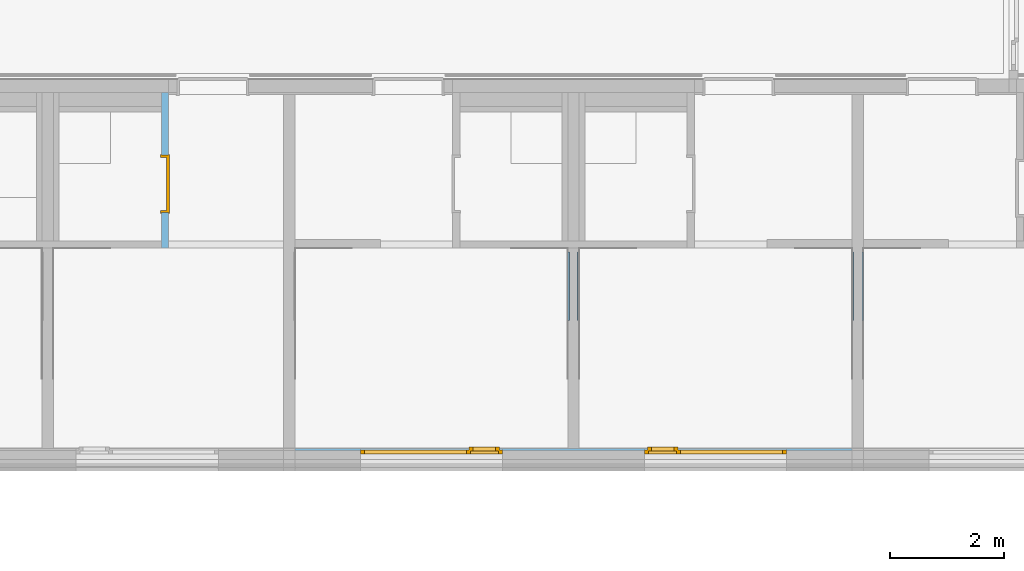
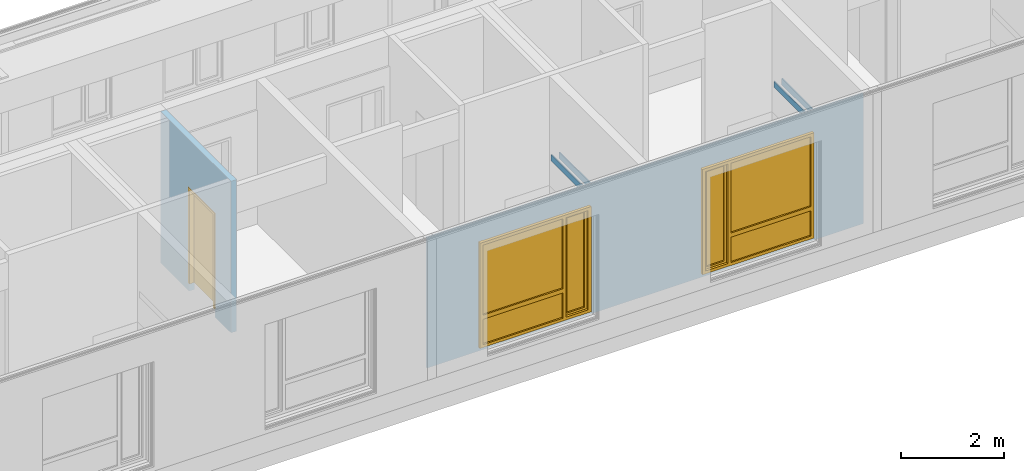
# One storey, part 71 of 207: 4 walls, 2 windows, 1 door, 3 openings, plus 2 elements that do not belong to this part.
"""IFC4 building model written with IfcOpenShell, lengths in metres."""

from ifc_helpers import new_model, entity, si_unit, converted_unit, derived_unit, frame, frame_2d, origin, origin_with_axes, place, context, subcontext, project, spatial, polyline, rectangle, outline, extrude, closed_shell, open_shell, faceted_brep, surface_model, source, transform, mapped, material, type_object, element, fill, save


model = new_model("IFC4")

# Units and contexts
model_context = context("Model", 3, precision=1e-05, world=origin())
body_context = subcontext(model_context, "Body", "Model", "MODEL_VIEW")
ifc_project = project(units=[si_unit("LENGTHUNIT", "METRE"), si_unit("AREAUNIT", "SQUARE_METRE"), si_unit("VOLUMEUNIT", "CUBIC_METRE"), si_unit("MASSUNIT", "GRAM", prefix="KILO"), converted_unit("PLANEANGLEUNIT", "DEGREE", entity("IfcPlaneAngleMeasure", 0.0174532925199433), si_unit("PLANEANGLEUNIT", "RADIAN"), dimensions=[0, 0, 0, 0, 0, 0, 0]), derived_unit("THERMALTRANSMITTANCEUNIT", [(si_unit("POWERUNIT", "WATT"), 1), (si_unit("THERMODYNAMICTEMPERATUREUNIT", "KELVIN"), -1), (si_unit("LENGTHUNIT", "METRE"), -2)]), derived_unit("VOLUMETRICFLOWRATEUNIT", [(si_unit("LENGTHUNIT", "METRE"), 3), (converted_unit("TIMEUNIT", "hour", entity("IfcTimeMeasure", 3600.0), si_unit("TIMEUNIT", "SECOND"), dimensions=[0, 0, 1, 0, 0, 0, 0]), -1), (si_unit("LENGTHUNIT", "METRE"), -1)])], contexts=[model_context])

# Site, building, storey
site_placement = place(None, origin())
site = spatial("IfcSite", under=ifc_project, at=site_placement, Name="Psychiatrie Neubau Wunstorf", CompositionType="ELEMENT")
building_placement = place(site_placement, origin())
building = spatial("IfcBuilding", under=site, at=building_placement, Name="Neubau H2 Stationsgebäude", CompositionType="ELEMENT")
storey_placement = place(building_placement, frame((0.0, 0.0, -0.2)))
storey = spatial("IfcBuildingStorey", under=building, at=storey_placement, Name="H2 Ebene 0", CompositionType="ELEMENT", Elevation=-0.2)

# Wall, openings, windows
ifc_material_1 = material(Name="WA-LB")
wall_1_placement = place(storey_placement, frame((29.9, -2.16399999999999, 0.5), z_axis=(0.0, 0.0, 1.0), x_axis=(-1.0, 1.39208372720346e-16, 0.0)))
wall_1 = element("IfcWall", 1, at=wall_1_placement, inside=storey, material=ifc_material_1, context=body_context, shape_type="SweptSolid", body=[
    extrude(rectangle(XDim=9.8, YDim=0.036, at=frame_2d((4.9, 0.018), x_axis=(1.0, 0.0))), origin_with_axes(), (0.0, 0.0, 1.0), 3.1),
])
opening_1_placement = place(wall_1_placement, frame((1.15, 0.0, 0.1), z_axis=(0.0, 1.0, 0.0), x_axis=(0.0, 0.0, 1.0)))
opening_1 = element("IfcOpeningElement", 2, at=opening_1_placement, cuts=wall_1, Name="Fensteröffnung", ObjectType="Opening", context=body_context, shape_type="SweptSolid", body=[
    extrude(outline(polyline([(2.5, 2.5), (2.5, 0.0), (0.0, 0.0), (0.0, 2.5), (2.5, 2.5)])), origin_with_axes(), (0.0, 0.0, 1.0), 0.036),
])
opening_2_placement = place(wall_1_placement, frame((6.15, 0.0, 0.1), z_axis=(0.0, 1.0, 0.0), x_axis=(0.0, 0.0, 1.0)))
opening_2 = element("IfcOpeningElement", 3, at=opening_2_placement, cuts=wall_1, Name="Fensteröffnung", ObjectType="Opening", context=body_context, shape_type="SweptSolid", body=[
    extrude(outline(polyline([(2.5, 2.5), (2.5, 0.0), (0.0, 0.0), (0.0, 2.5), (2.5, 2.5)])), origin_with_axes(), (0.0, 0.0, 1.0), 0.036),
])
shared_shape_1 = source(origin_with_axes(), body_context, "Body", "SurfaceModel", [
    surface_model("IfcShellBasedSurfaceModel", [(2.5, 0.0, 2.5), (2.5, 0.0, 0.0), (2.43, 0.0, 0.0), (2.43, 0.0, 2.5), (2.5, 0.0699999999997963, 0.0), (2.5, 0.0699999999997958, 2.5), (2.43, 0.0699999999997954, 2.5), (2.43, 0.0699999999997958, 0.0)], [closed_shell([[[0, 1, 2, 3]], [[4, 5, 6, 7]], [[1, 0, 5, 4]], [[2, 1, 4, 7]], [[3, 2, 7, 6]], [[0, 3, 6, 5]]], orient=[[False], [False], [False], [False], [False], [False]])]),
    surface_model("IfcShellBasedSurfaceModel", [(0.07, 0.0, 2.5), (0.07, 0.0, 0.0), (0.0, 0.0, 0.0), (0.0, 0.0, 2.5), (0.07, 0.0699999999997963, 0.0), (0.07, 0.0699999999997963, 2.5), (0.0, 0.0699999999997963, 2.5), (0.0, 0.0699999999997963, 0.0)], [closed_shell([[[0, 1, 2, 3]], [[4, 5, 6, 7]], [[1, 0, 5, 4]], [[2, 1, 4, 7]], [[3, 2, 7, 6]], [[0, 3, 6, 5]]], orient=[[False], [False], [False], [False], [False], [False]])]),
    surface_model("IfcShellBasedSurfaceModel", [(2.43, 0.0, 0.07), (2.43, 0.0, 0.0), (0.07, 0.0, 0.0), (0.07, 0.0, 0.07), (2.43, 0.0699999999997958, 0.0), (2.43, 0.0699999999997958, 0.07), (0.07, 0.0699999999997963, 0.07), (0.07, 0.0699999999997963, 0.0)], [closed_shell([[[0, 1, 2, 3]], [[4, 5, 6, 7]], [[1, 0, 5, 4]], [[2, 1, 4, 7]], [[3, 2, 7, 6]], [[0, 3, 6, 5]]], orient=[[False], [False], [False], [False], [False], [False]])]),
    surface_model("IfcShellBasedSurfaceModel", [(2.43, 0.0, 2.5), (2.43, 0.0, 2.43), (0.07, 0.0, 2.43), (0.07, 0.0, 2.5), (2.43, 0.0699999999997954, 2.43), (2.43, 0.0699999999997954, 2.5), (0.07, 0.0699999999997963, 2.5), (0.07, 0.0699999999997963, 2.43)], [closed_shell([[[0, 1, 2, 3]], [[4, 5, 6, 7]], [[1, 0, 5, 4]], [[2, 1, 4, 7]], [[3, 2, 7, 6]], [[0, 3, 6, 5]]], orient=[[False], [False], [False], [False], [False], [False]])]),
    surface_model("IfcShellBasedSurfaceModel", [(1.934285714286, 0.0, 2.43), (1.934285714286, 0.0, 0.07), (1.864285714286, 0.0, 0.07), (1.864285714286, 0.0, 2.43), (1.934285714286, 0.0699999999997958, 0.07), (1.934285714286, 0.0699999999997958, 2.43), (1.864285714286, 0.0699999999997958, 2.43), (1.864285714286, 0.0699999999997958, 0.07)], [closed_shell([[[0, 1, 2, 3]], [[4, 5, 6, 7]], [[1, 0, 5, 4]], [[2, 1, 4, 7]], [[3, 2, 7, 6]], [[0, 3, 6, 5]]], orient=[[False], [False], [False], [False], [False], [False]])]),
    surface_model("IfcShellBasedSurfaceModel", [(2.45, -0.0500000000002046, 2.45), (2.45, -0.0500000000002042, 0.05), (2.38, -0.0500000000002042, 0.05), (2.38, -0.0500000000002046, 2.45), (2.45, 0.0199999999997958, 0.05), (2.45, 0.0199999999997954, 2.45), (2.38, 0.0199999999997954, 2.45), (2.38, 0.0199999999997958, 0.05)], [closed_shell([[[0, 1, 2, 3]], [[4, 5, 6, 7]], [[1, 0, 5, 4]], [[2, 1, 4, 7]], [[3, 2, 7, 6]], [[0, 3, 6, 5]]], orient=[[False], [False], [False], [False], [False], [False]])]),
    surface_model("IfcShellBasedSurfaceModel", [(1.984285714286, -0.0500000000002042, 2.45), (1.984285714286, -0.0500000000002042, 0.05), (1.914285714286, -0.0500000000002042, 0.05), (1.914285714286, -0.0500000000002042, 2.45), (1.984285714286, 0.0199999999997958, 0.05), (1.984285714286, 0.0199999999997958, 2.45), (1.914285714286, 0.0199999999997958, 2.45), (1.914285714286, 0.0199999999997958, 0.05)], [closed_shell([[[0, 1, 2, 3]], [[4, 5, 6, 7]], [[1, 0, 5, 4]], [[2, 1, 4, 7]], [[3, 2, 7, 6]], [[0, 3, 6, 5]]], orient=[[False], [False], [False], [False], [False], [False]])]),
    surface_model("IfcShellBasedSurfaceModel", [(2.38, -0.0500000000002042, 0.12), (2.38, -0.0500000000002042, 0.05), (1.984285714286, -0.0500000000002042, 0.05), (1.984285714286, -0.0500000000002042, 0.12), (2.38, 0.0199999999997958, 0.05), (2.38, 0.0199999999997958, 0.12), (1.984285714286, 0.0199999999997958, 0.12), (1.984285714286, 0.0199999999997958, 0.05)], [closed_shell([[[0, 1, 2, 3]], [[4, 5, 6, 7]], [[1, 0, 5, 4]], [[2, 1, 4, 7]], [[3, 2, 7, 6]], [[0, 3, 6, 5]]], orient=[[False], [False], [False], [False], [False], [False]])]),
    surface_model("IfcShellBasedSurfaceModel", [(2.38, -0.0500000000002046, 2.45), (2.38, -0.0500000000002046, 2.38), (1.984285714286, -0.0500000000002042, 2.38), (1.984285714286, -0.0500000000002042, 2.45), (2.38, 0.0199999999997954, 2.38), (2.38, 0.0199999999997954, 2.45), (1.984285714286, 0.0199999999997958, 2.45), (1.984285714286, 0.0199999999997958, 2.38)], [closed_shell([[[0, 1, 2, 3]], [[4, 5, 6, 7]], [[1, 0, 5, 4]], [[2, 1, 4, 7]], [[3, 2, 7, 6]], [[0, 3, 6, 5]]], orient=[[False], [False], [False], [False], [False], [False]])]),
    surface_model("IfcShellBasedSurfaceModel", [(1.864285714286, 0.0, 0.77), (1.864285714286, 0.0, 0.67), (0.07, 0.0, 0.67), (0.07, 0.0, 0.77), (1.864285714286, 0.0699999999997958, 0.67), (1.864285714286, 0.0699999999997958, 0.77), (0.07, 0.0699999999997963, 0.77), (0.07, 0.0699999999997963, 0.67)], [closed_shell([[[0, 1, 2, 3]], [[4, 5, 6, 7]], [[1, 0, 5, 4]], [[2, 1, 4, 7]], [[3, 2, 7, 6]], [[0, 3, 6, 5]]], orient=[[False], [False], [False], [False], [False], [False]])]),
    surface_model("IfcShellBasedSurfaceModel", [(2.38, -0.0150000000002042, 0.12), (1.984285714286, -0.0150000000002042, 0.12), (1.984285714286, -0.0150000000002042, 2.38), (2.38, -0.0150000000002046, 2.38)], [open_shell([[[0, 1, 2, 3]]], orient=[[False]])]),
    surface_model("IfcShellBasedSurfaceModel", [(1.864285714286, 0.0349999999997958, 0.07), (0.07, 0.0349999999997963, 0.07), (0.07, 0.0349999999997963, 0.67), (1.864285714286, 0.0349999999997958, 0.67)], [open_shell([[[0, 1, 2, 3]]], orient=[[False]])]),
    surface_model("IfcShellBasedSurfaceModel", [(1.864285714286, 0.0349999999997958, 0.77), (0.07, 0.0349999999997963, 0.77), (0.07, 0.0349999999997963, 2.43), (1.864285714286, 0.0349999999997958, 2.43)], [open_shell([[[0, 1, 2, 3]]], orient=[[False]])]),
])
window_1_placement = place(opening_1_placement, frame((0.0, 0.0, 0.03), z_axis=(1.0, 0.0, 0.0), x_axis=(0.0, 1.0, -4.26905676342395e-17)))
window_1 = element("IfcWindow", 4, at=window_1_placement, inside=storey, Name="Fenster", OverallHeight=2.5, OverallWidth=2.5, PartitioningType="USERDEFINED", PredefinedType="WINDOW", context=body_context, shape_type="MappedRepresentation", body=[
    mapped(shared_shape_1, transform((0.0, 0.0, 0.0), x_axis=(1.0, 0.0, 0.0), y_axis=(0.0, 1.0, 0.0), z_axis=(0.0, 0.0, 1.0), scale=1.0)),
])
fill(opening_1, window_1)
shared_shape_2 = source(origin_with_axes(), body_context, "Body", "SurfaceModel", [
    surface_model("IfcShellBasedSurfaceModel", [(0.0, 0.0, 2.5), (0.07, 0.0, 2.5), (0.07, 0.0, 0.0), (0.0, 0.0, 0.0), (0.0, 0.0699999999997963, 0.0), (0.07, 0.0699999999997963, 0.0), (0.07, 0.0699999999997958, 2.5), (0.0, 0.0699999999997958, 2.5)], [closed_shell([[[0, 1, 2, 3]], [[4, 5, 6, 7]], [[3, 4, 7, 0]], [[2, 5, 4, 3]], [[1, 6, 5, 2]], [[0, 7, 6, 1]]], orient=[[False], [False], [False], [False], [False], [False]])]),
    surface_model("IfcShellBasedSurfaceModel", [(2.43, 0.0, 2.5), (2.5, 0.0, 2.5), (2.5, 0.0, 0.0), (2.43, 0.0, 0.0), (2.43, 0.0699999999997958, 0.0), (2.5, 0.0699999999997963, 0.0), (2.5, 0.0699999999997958, 2.5), (2.43, 0.0699999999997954, 2.5)], [closed_shell([[[0, 1, 2, 3]], [[4, 5, 6, 7]], [[3, 4, 7, 0]], [[2, 5, 4, 3]], [[1, 6, 5, 2]], [[0, 7, 6, 1]]], orient=[[False], [False], [False], [False], [False], [False]])]),
    surface_model("IfcShellBasedSurfaceModel", [(0.07, 0.0, 0.07), (2.43, 0.0, 0.07), (2.43, 0.0, 0.0), (0.07, 0.0, 0.0), (0.07, 0.0699999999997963, 0.0), (2.43, 0.0699999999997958, 0.0), (2.43, 0.0699999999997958, 0.07), (0.07, 0.0699999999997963, 0.07)], [closed_shell([[[0, 1, 2, 3]], [[4, 5, 6, 7]], [[3, 4, 7, 0]], [[2, 5, 4, 3]], [[1, 6, 5, 2]], [[0, 7, 6, 1]]], orient=[[False], [False], [False], [False], [False], [False]])]),
    surface_model("IfcShellBasedSurfaceModel", [(0.07, 0.0, 2.5), (2.43, 0.0, 2.5), (2.43, 0.0, 2.43), (0.07, 0.0, 2.43), (0.07, 0.0699999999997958, 2.43), (2.43, 0.0699999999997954, 2.43), (2.43, 0.0699999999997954, 2.5), (0.07, 0.0699999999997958, 2.5)], [closed_shell([[[0, 1, 2, 3]], [[4, 5, 6, 7]], [[3, 4, 7, 0]], [[2, 5, 4, 3]], [[1, 6, 5, 2]], [[0, 7, 6, 1]]], orient=[[False], [False], [False], [False], [False], [False]])]),
    surface_model("IfcShellBasedSurfaceModel", [(0.565714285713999, 0.0, 2.43), (0.635714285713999, 0.0, 2.43), (0.635714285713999, 0.0, 0.07), (0.565714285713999, 0.0, 0.07), (0.565714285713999, 0.0699999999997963, 0.07), (0.635714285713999, 0.0699999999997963, 0.07), (0.635714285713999, 0.0699999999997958, 2.43), (0.565714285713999, 0.0699999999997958, 2.43)], [closed_shell([[[0, 1, 2, 3]], [[4, 5, 6, 7]], [[3, 4, 7, 0]], [[2, 5, 4, 3]], [[1, 6, 5, 2]], [[0, 7, 6, 1]]], orient=[[False], [False], [False], [False], [False], [False]])]),
    surface_model("IfcShellBasedSurfaceModel", [(0.05, -0.0500000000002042, 2.45), (0.12, -0.0500000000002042, 2.45), (0.12, -0.0500000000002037, 0.05), (0.05, -0.0500000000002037, 0.05), (0.05, 0.0199999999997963, 0.05), (0.12, 0.0199999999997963, 0.05), (0.12, 0.0199999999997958, 2.45), (0.05, 0.0199999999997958, 2.45)], [closed_shell([[[0, 1, 2, 3]], [[4, 5, 6, 7]], [[3, 4, 7, 0]], [[2, 5, 4, 3]], [[1, 6, 5, 2]], [[0, 7, 6, 1]]], orient=[[False], [False], [False], [False], [False], [False]])]),
    surface_model("IfcShellBasedSurfaceModel", [(0.515714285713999, -0.0500000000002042, 2.45), (0.585714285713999, -0.0500000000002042, 2.45), (0.585714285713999, -0.0500000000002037, 0.05), (0.515714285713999, -0.0500000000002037, 0.05), (0.515714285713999, 0.0199999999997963, 0.05), (0.585714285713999, 0.0199999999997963, 0.05), (0.585714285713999, 0.0199999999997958, 2.45), (0.515714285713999, 0.0199999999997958, 2.45)], [closed_shell([[[0, 1, 2, 3]], [[4, 5, 6, 7]], [[3, 4, 7, 0]], [[2, 5, 4, 3]], [[1, 6, 5, 2]], [[0, 7, 6, 1]]], orient=[[False], [False], [False], [False], [False], [False]])]),
    surface_model("IfcShellBasedSurfaceModel", [(0.12, -0.0500000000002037, 0.12), (0.515714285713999, -0.0500000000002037, 0.12), (0.515714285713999, -0.0500000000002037, 0.05), (0.12, -0.0500000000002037, 0.05), (0.12, 0.0199999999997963, 0.05), (0.515714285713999, 0.0199999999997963, 0.05), (0.515714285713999, 0.0199999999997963, 0.12), (0.12, 0.0199999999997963, 0.12)], [closed_shell([[[0, 1, 2, 3]], [[4, 5, 6, 7]], [[3, 4, 7, 0]], [[2, 5, 4, 3]], [[1, 6, 5, 2]], [[0, 7, 6, 1]]], orient=[[False], [False], [False], [False], [False], [False]])]),
    surface_model("IfcShellBasedSurfaceModel", [(0.12, -0.0500000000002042, 2.45), (0.515714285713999, -0.0500000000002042, 2.45), (0.515714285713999, -0.0500000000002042, 2.38), (0.12, -0.0500000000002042, 2.38), (0.12, 0.0199999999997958, 2.38), (0.515714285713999, 0.0199999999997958, 2.38), (0.515714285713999, 0.0199999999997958, 2.45), (0.12, 0.0199999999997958, 2.45)], [closed_shell([[[0, 1, 2, 3]], [[4, 5, 6, 7]], [[3, 4, 7, 0]], [[2, 5, 4, 3]], [[1, 6, 5, 2]], [[0, 7, 6, 1]]], orient=[[False], [False], [False], [False], [False], [False]])]),
    surface_model("IfcShellBasedSurfaceModel", [(0.635714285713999, 0.0, 0.77), (2.43, 0.0, 0.77), (2.43, 0.0, 0.67), (0.635714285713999, 0.0, 0.67), (0.635714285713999, 0.0699999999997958, 0.67), (2.43, 0.0699999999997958, 0.67), (2.43, 0.0699999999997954, 0.77), (0.635714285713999, 0.0699999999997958, 0.77)], [closed_shell([[[0, 1, 2, 3]], [[4, 5, 6, 7]], [[3, 4, 7, 0]], [[2, 5, 4, 3]], [[1, 6, 5, 2]], [[0, 7, 6, 1]]], orient=[[False], [False], [False], [False], [False], [False]])]),
    surface_model("IfcShellBasedSurfaceModel", [(0.12, -0.0150000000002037, 0.12), (0.12, -0.0150000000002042, 2.38), (0.515714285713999, -0.0150000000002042, 2.38), (0.515714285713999, -0.0150000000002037, 0.12)], [open_shell([[[0, 1, 2, 3]]], orient=[[False]])]),
    surface_model("IfcShellBasedSurfaceModel", [(0.635714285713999, 0.0349999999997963, 0.07), (0.635714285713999, 0.0349999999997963, 0.67), (2.43, 0.0349999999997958, 0.67), (2.43, 0.0349999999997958, 0.07)], [open_shell([[[0, 1, 2, 3]]], orient=[[False]])]),
    surface_model("IfcShellBasedSurfaceModel", [(0.635714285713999, 0.0349999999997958, 0.77), (0.635714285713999, 0.0349999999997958, 2.43), (2.43, 0.0349999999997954, 2.43), (2.43, 0.0349999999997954, 0.77)], [open_shell([[[0, 1, 2, 3]]], orient=[[False]])]),
])
window_2_placement = place(opening_2_placement, frame((0.0, 0.0, 0.03), z_axis=(1.0, 0.0, 0.0), x_axis=(0.0, 1.0, -4.26905676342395e-17)))
window_2 = element("IfcWindow", 5, at=window_2_placement, inside=storey, Name="Fenster", OverallHeight=2.5, OverallWidth=2.5, PartitioningType="USERDEFINED", PredefinedType="WINDOW", context=body_context, shape_type="MappedRepresentation", body=[
    mapped(shared_shape_2, transform((0.0, 0.0, 0.0), x_axis=(1.0, 0.0, 0.0), y_axis=(0.0, 1.0, 0.0), z_axis=(0.0, 0.0, 1.0), scale=1.0)),
])
fill(opening_2, window_2)

# Walls
for number, where, name in (
    (6, (25.075, 0.0854496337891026, 1.625), "WV 1.1"),
    (7, (24.9, 0.0854496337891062, 1.625), "WV 1.1"),
    (8, (29.9, 0.0854496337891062, 1.625), "WV 1.1"),
    (9, (30.075, 0.0854496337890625, 1.625), "WV 1.1"),
):
    element("IfcWall", number, at=place(storey_placement, frame(where)), inside=storey, Name=name, context=body_context, shape_type="Brep", body=[
        faceted_brep([(0.025, 1.2, 0.0), (0.0, 1.2, 0.0), (0.0, 0.0, 0.0), (0.025, 0.0, 0.0), (0.0, 1.2, 0.15), (0.025, 1.2, 0.15), (0.025, 0.0, 0.15), (0.0, 0.0, 0.15)], [[[0, 1, 2, 3]], [[4, 5, 6, 7]], [[1, 0, 5, 4]], [[2, 1, 4, 7]], [[3, 2, 7, 6]], [[0, 3, 6, 5]]], orient=[[False], [False], [False], [False], [False], [False]]),
    ])

# Wall, opening, door
ifc_material_2 = material(Name="WI-LB")
wall_2_placement = place(storey_placement, frame((17.875, 1.35874963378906, 0.0), z_axis=(0.0, 0.0, 1.0), x_axis=(0.0, 1.0, 0.0)))
wall_2 = element("IfcWall", 10, at=wall_2_placement, inside=storey, material=ifc_material_2, context=body_context, shape_type="SweptSolid", body=[
    extrude(rectangle(XDim=2.74, YDim=0.125, at=frame_2d((1.37, 0.0625), x_axis=(1.0, 0.0))), origin_with_axes(), (0.0, 0.0, 1.0), 3.6),
])
opening_3_placement = place(wall_2_placement, frame((1.635, 0.125, 0.0), z_axis=(0.0, -1.0, 0.0), x_axis=(0.0, 0.0, 1.0)))
opening_3 = element("IfcOpeningElement", 11, at=opening_3_placement, cuts=wall_2, Name="Türöffnung", ObjectType="Opening", context=body_context, shape_type="SweptSolid", body=[
    extrude(outline(polyline([(2.46, 1.01), (2.46, 0.0), (0.0, 0.0), (0.0, 1.01), (2.46, 1.01)])), origin_with_axes(), (0.0, 0.0, 1.0), 0.125),
])
ifc_material_3 = material(Name="TI-1F-UZ-D-N")
door_type = type_object("IfcDoorType", Name="SMT", OperationType="SINGLE_SWING_RIGHT", ParameterTakesPrecedence=False, PredefinedType="DOOR")
shared_shape_3 = source(origin_with_axes(), body_context, "Body", "Brep", [
    faceted_brep([(1.05, 0.0124999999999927, 0.0), (1.05, 0.112499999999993, 0.0), (1.01, 0.112499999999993, 0.0), (1.01, 0.0124999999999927, 0.0), (1.05, 0.112499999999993, 3.6), (1.05, 0.0124999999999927, 3.6), (1.01, 0.0124999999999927, 3.6), (1.01, 0.112499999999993, 3.6)], [[[0, 1, 2, 3]], [[4, 5, 6, 7]], [[1, 0, 5, 4]], [[2, 1, 4, 7]], [[3, 2, 7, 6]], [[0, 3, 6, 5]]], orient=[[False], [False], [False], [False], [False], [False]]),
    faceted_brep([(0.0, 0.0124999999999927, 0.0), (0.0, 0.112499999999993, 0.0), (-0.0399999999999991, 0.112499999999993, 0.0), (-0.0399999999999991, 0.0124999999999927, 0.0), (0.0, 0.112499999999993, 3.6), (0.0, 0.0124999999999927, 3.6), (-0.0399999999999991, 0.0124999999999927, 3.6), (-0.0399999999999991, 0.112499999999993, 3.6)], [[[0, 1, 2, 3]], [[4, 5, 6, 7]], [[1, 0, 5, 4]], [[2, 1, 4, 7]], [[3, 2, 7, 6]], [[0, 3, 6, 5]]], orient=[[False], [False], [False], [False], [False], [False]]),
    faceted_brep([(1.01, 0.0124999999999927, 2.46), (1.01, 0.112499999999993, 2.46), (0.0, 0.112499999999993, 2.46), (0.0, 0.0124999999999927, 2.46), (1.01, 0.112499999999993, 2.5), (1.01, 0.0124999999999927, 2.5), (0.0, 0.0124999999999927, 2.5), (0.0, 0.112499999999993, 2.5)], [[[0, 1, 2, 3]], [[4, 5, 6, 7]], [[1, 0, 5, 4]], [[2, 1, 4, 7]], [[3, 2, 7, 6]], [[0, 3, 6, 5]]], orient=[[False], [False], [False], [False], [False], [False]]),
])
shared_shape_4 = source(origin_with_axes(), body_context, "Body", "Brep", [
    faceted_brep([(0.0, -0.0150000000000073, 2.46), (0.0400000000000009, -0.0150000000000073, 2.46), (0.0400000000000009, -0.0150000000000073, 0.2), (0.0, -0.0150000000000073, 0.2), (0.0, 0.139999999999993, 0.2), (0.0400000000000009, 0.139999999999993, 0.2), (0.0400000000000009, 0.139999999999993, 2.46), (0.0, 0.139999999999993, 2.46)], [[[0, 1, 2, 3]], [[4, 5, 6, 7]], [[3, 4, 7, 0]], [[2, 5, 4, 3]], [[1, 6, 5, 2]], [[0, 7, 6, 1]]], orient=[[False], [False], [False], [False], [False], [False]]),
    faceted_brep([(0.0, -0.0150000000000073, 2.475), (0.0, -0.0150000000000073, 0.2), (-0.0149999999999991, -0.0150000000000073, 0.2), (-0.0149999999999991, -0.0150000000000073, 2.475), (0.0, 0.0, 0.2), (0.0, 0.0, 2.475), (-0.0149999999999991, 0.0, 2.475), (-0.0149999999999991, 0.0, 0.2)], [[[0, 1, 2, 3]], [[4, 5, 6, 7]], [[1, 0, 5, 4]], [[2, 1, 4, 7]], [[3, 2, 7, 6]], [[0, 3, 6, 5]]], orient=[[False], [False], [False], [False], [False], [False]]),
    faceted_brep([(0.0, 0.124999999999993, 2.475), (0.0, 0.124999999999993, 0.2), (-0.0149999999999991, 0.124999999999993, 0.2), (-0.0149999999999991, 0.124999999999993, 2.475), (0.0, 0.139999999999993, 0.2), (0.0, 0.139999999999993, 2.475), (-0.0149999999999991, 0.139999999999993, 2.475), (-0.0149999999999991, 0.139999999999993, 0.2)], [[[0, 1, 2, 3]], [[4, 5, 6, 7]], [[1, 0, 5, 4]], [[2, 1, 4, 7]], [[3, 2, 7, 6]], [[0, 3, 6, 5]]], orient=[[False], [False], [False], [False], [False], [False]]),
    faceted_brep([(0.970000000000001, -0.0150000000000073, 2.46), (1.01, -0.0150000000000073, 2.46), (1.01, -0.0150000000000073, 0.2), (0.970000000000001, -0.0150000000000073, 0.2), (0.970000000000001, 0.139999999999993, 0.2), (1.01, 0.139999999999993, 0.2), (1.01, 0.139999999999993, 2.46), (0.970000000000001, 0.139999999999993, 2.46)], [[[0, 1, 2, 3]], [[4, 5, 6, 7]], [[3, 4, 7, 0]], [[2, 5, 4, 3]], [[1, 6, 5, 2]], [[0, 7, 6, 1]]], orient=[[False], [False], [False], [False], [False], [False]]),
    faceted_brep([(1.01, -0.0150000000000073, 2.475), (1.025, -0.0150000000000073, 2.475), (1.025, -0.0150000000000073, 0.2), (1.01, -0.0150000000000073, 0.2), (1.01, 0.0, 0.2), (1.025, 0.0, 0.2), (1.025, 0.0, 2.475), (1.01, 0.0, 2.475)], [[[0, 1, 2, 3]], [[4, 5, 6, 7]], [[3, 4, 7, 0]], [[2, 5, 4, 3]], [[1, 6, 5, 2]], [[0, 7, 6, 1]]], orient=[[False], [False], [False], [False], [False], [False]]),
    faceted_brep([(1.01, 0.124999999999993, 2.475), (1.025, 0.124999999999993, 2.475), (1.025, 0.124999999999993, 0.2), (1.01, 0.124999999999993, 0.2), (1.01, 0.139999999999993, 0.2), (1.025, 0.139999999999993, 0.2), (1.025, 0.139999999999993, 2.475), (1.01, 0.139999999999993, 2.475)], [[[0, 1, 2, 3]], [[4, 5, 6, 7]], [[3, 4, 7, 0]], [[2, 5, 4, 3]], [[1, 6, 5, 2]], [[0, 7, 6, 1]]], orient=[[False], [False], [False], [False], [False], [False]]),
    faceted_brep([(0.0400000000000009, -0.0150000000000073, 2.46), (0.970000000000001, -0.0150000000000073, 2.46), (0.970000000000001, -0.0150000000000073, 2.42), (0.0400000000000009, -0.0150000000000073, 2.42), (0.0400000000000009, 0.139999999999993, 2.42), (0.970000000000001, 0.139999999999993, 2.42), (0.970000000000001, 0.139999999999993, 2.46), (0.0400000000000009, 0.139999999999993, 2.46)], [[[0, 1, 2, 3]], [[4, 5, 6, 7]], [[3, 4, 7, 0]], [[2, 5, 4, 3]], [[1, 6, 5, 2]], [[0, 7, 6, 1]]], orient=[[False], [False], [False], [False], [False], [False]]),
    faceted_brep([(0.0, -0.0150000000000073, 2.475), (1.01, -0.0150000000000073, 2.475), (1.01, -0.0150000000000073, 2.46), (0.0, -0.0150000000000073, 2.46), (0.0, 0.0, 2.46), (1.01, 0.0, 2.46), (1.01, 0.0, 2.475), (0.0, 0.0, 2.475)], [[[0, 1, 2, 3]], [[4, 5, 6, 7]], [[3, 4, 7, 0]], [[2, 5, 4, 3]], [[1, 6, 5, 2]], [[0, 7, 6, 1]]], orient=[[False], [False], [False], [False], [False], [False]]),
    faceted_brep([(0.0, 0.124999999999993, 2.475), (1.01, 0.124999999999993, 2.475), (1.01, 0.124999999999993, 2.46), (0.0, 0.124999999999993, 2.46), (0.0, 0.139999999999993, 2.46), (1.01, 0.139999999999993, 2.46), (1.01, 0.139999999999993, 2.475), (0.0, 0.139999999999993, 2.475)], [[[0, 1, 2, 3]], [[4, 5, 6, 7]], [[3, 4, 7, 0]], [[2, 5, 4, 3]], [[1, 6, 5, 2]], [[0, 7, 6, 1]]], orient=[[False], [False], [False], [False], [False], [False]]),
    faceted_brep([(0.0250000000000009, 0.0909999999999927, 2.435), (0.985, 0.0909999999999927, 2.435), (0.985, 0.0909999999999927, 0.2), (0.0250000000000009, 0.0909999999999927, 0.2), (0.0250000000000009, 0.140999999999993, 0.2), (0.985, 0.140999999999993, 0.2), (0.985, 0.140999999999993, 2.435), (0.0250000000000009, 0.140999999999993, 2.435)], [[[0, 1, 2, 3]], [[4, 5, 6, 7]], [[3, 4, 7, 0]], [[2, 5, 4, 3]], [[1, 6, 5, 2]], [[0, 7, 6, 1]]], orient=[[False], [False], [False], [False], [False], [False]]),
])
door_placement = place(opening_3_placement, frame((0.0, 0.0, 0.0), z_axis=(1.0, 0.0, 0.0), x_axis=(0.0, 1.0, 0.0)))
door = element("IfcDoor", 12, at=door_placement, inside=storey, type_object=door_type, material=ifc_material_3, Name="SMT", OverallHeight=2.46, OverallWidth=1.01, context=body_context, shape_type="MappedRepresentation", body=[
    mapped(shared_shape_3, transform((0.0, 0.0, 0.0), x_axis=(1.0, 0.0, 0.0), y_axis=(0.0, 1.0, 0.0), z_axis=(0.0, 0.0, 1.0), scale=1.0)),
    mapped(shared_shape_4, transform((0.0, 0.0, 0.0), x_axis=(1.0, 0.0, 0.0), y_axis=(0.0, 1.0, 0.0), z_axis=(0.0, 0.0, 1.0), scale=1.0)),
])
fill(opening_3, door)

save(model, "model.ifc")
